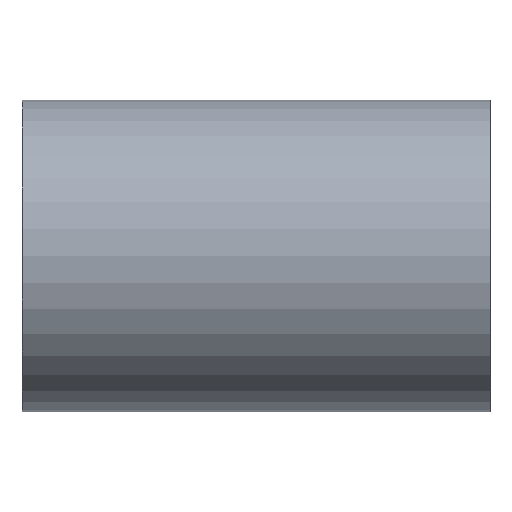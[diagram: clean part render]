
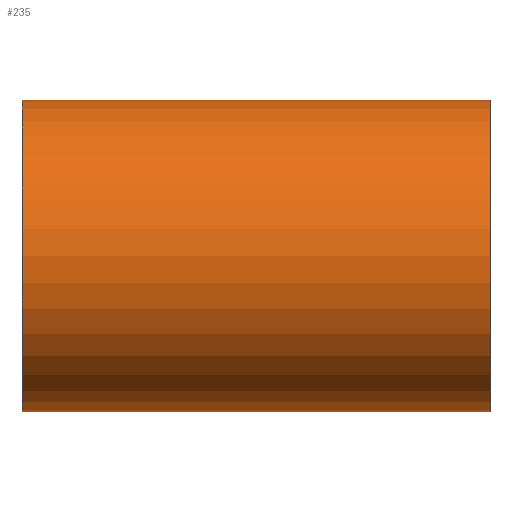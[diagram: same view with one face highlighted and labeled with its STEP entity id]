
A CAD part, top view. The second image highlights one B-rep face of the part: STEP entity #235.
In plain terms, the highlighted cylindrical face has radius 5 mm (diameter 10 mm), a partial arc.
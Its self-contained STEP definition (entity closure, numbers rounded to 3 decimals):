
#15 = CIRCLE ( 'NONE', #99, 5. ) ;
#20 = CYLINDRICAL_SURFACE ( 'NONE', #95, 5. ) ;
#22 = EDGE_CURVE ( 'NONE', #222, #124, #219, .T. ) ;
#39 = LINE ( 'NONE', #249, #111 ) ;
#40 = CARTESIAN_POINT ( 'NONE',  ( 7.5, -5., 0. ) ) ;
#54 = ORIENTED_EDGE ( 'NONE', *, *, #244, .T. ) ;
#56 = AXIS2_PLACEMENT_3D ( 'NONE', #136, #89, #134 ) ;
#85 = EDGE_LOOP ( 'NONE', ( #168, #208, #189, #54 ) ) ;
#86 = VERTEX_POINT ( 'NONE', #238 ) ;
#87 = DIRECTION ( 'NONE',  ( 1., 0., 0. ) ) ;
#89 = DIRECTION ( 'NONE',  ( 1., 0., 0. ) ) ;
#91 = CARTESIAN_POINT ( 'NONE',  ( 7.5, 5., 0. ) ) ;
#92 = CARTESIAN_POINT ( 'NONE',  ( -7.5, 0., 0. ) ) ;
#95 = AXIS2_PLACEMENT_3D ( 'NONE', #92, #87, #175 ) ;
#99 = AXIS2_PLACEMENT_3D ( 'NONE', #152, #171, #209 ) ;
#104 = CARTESIAN_POINT ( 'NONE',  ( -7.5, -5., 0. ) ) ;
#111 = VECTOR ( 'NONE', #132, 1000. ) ;
#124 = VERTEX_POINT ( 'NONE', #40 ) ;
#132 = DIRECTION ( 'NONE',  ( 1., 0., 0. ) ) ;
#134 = DIRECTION ( 'NONE',  ( 0., 1., 0. ) ) ;
#136 = CARTESIAN_POINT ( 'NONE',  ( -7.5, 0., 0. ) ) ;
#149 = VERTEX_POINT ( 'NONE', #91 ) ;
#152 = CARTESIAN_POINT ( 'NONE',  ( 7.5, 0., 0. ) ) ;
#162 = CIRCLE ( 'NONE', #56, 5. ) ;
#164 = EDGE_CURVE ( 'NONE', #86, #149, #39, .T. ) ;
#165 = DIRECTION ( 'NONE',  ( 1., 0., 0. ) ) ;
#168 = ORIENTED_EDGE ( 'NONE', *, *, #22, .T. ) ;
#171 = DIRECTION ( 'NONE',  ( 1., 0., 0. ) ) ;
#175 = DIRECTION ( 'NONE',  ( 0., -1., 0. ) ) ;
#176 = CARTESIAN_POINT ( 'NONE',  ( -7.5, -5., 0. ) ) ;
#189 = ORIENTED_EDGE ( 'NONE', *, *, #164, .F. ) ;
#195 = VECTOR ( 'NONE', #165, 1000. ) ;
#196 = FACE_OUTER_BOUND ( 'NONE', #85, .T. ) ;
#208 = ORIENTED_EDGE ( 'NONE', *, *, #216, .F. ) ;
#209 = DIRECTION ( 'NONE',  ( 0., 1., 0. ) ) ;
#216 = EDGE_CURVE ( 'NONE', #149, #124, #15, .T. ) ;
#219 = LINE ( 'NONE', #104, #195 ) ;
#222 = VERTEX_POINT ( 'NONE', #176 ) ;
#235 = ADVANCED_FACE ( 'NONE', ( #196 ), #20, .T. ) ;
#238 = CARTESIAN_POINT ( 'NONE',  ( -7.5, 5., 0. ) ) ;
#244 = EDGE_CURVE ( 'NONE', #86, #222, #162, .T. ) ;
#249 = CARTESIAN_POINT ( 'NONE',  ( -7.5, 5., 0. ) ) ;
